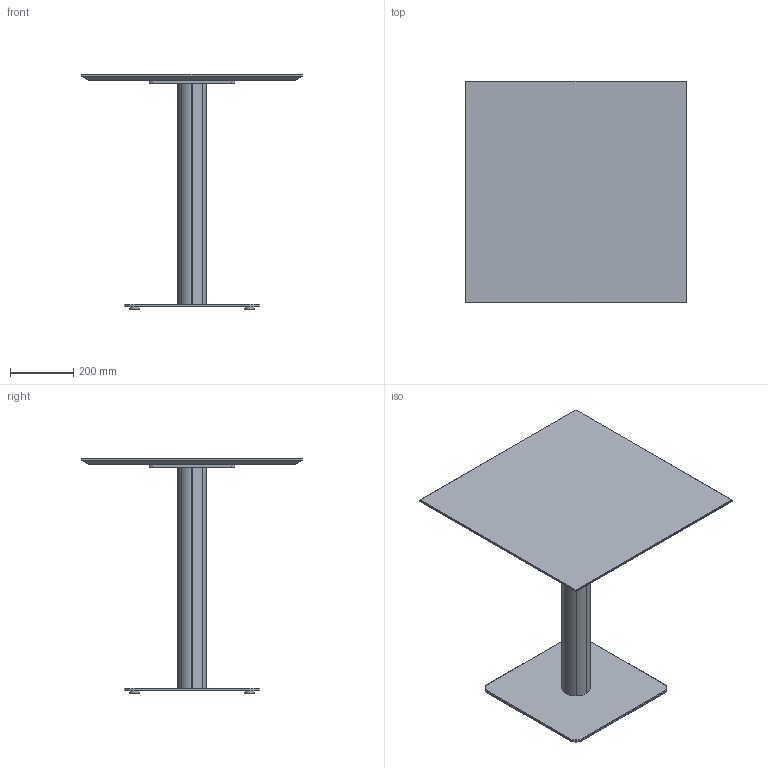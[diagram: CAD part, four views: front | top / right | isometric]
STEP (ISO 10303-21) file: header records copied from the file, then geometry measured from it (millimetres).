
FILE_DESCRIPTION( ('This file contains a STEP AP42 implementation' ,'as created by ZW3D STEP Interface translator.') ,'2;1' );
FILE_NAME( 'Fut - B_Carré - F4 - M5 - 700 x 700 x 750.stp' ,'24 911.1641 1', (''), ('ZWCAD Software Co.'), 'Version 1.0', 'ZW3D to STEP translator', '' );
FILE_SCHEMA(('AUTOMOTIVE_DESIGN { 1 0 10303 214 1 1 1 1 }'));
Length unit declared in the file: millimetre
Products named in the file (15): 0; PIED BISTROT PARAMETRIQUE_; CROIX ACIER 370 V.02_; CRX-X370-02_; SOCLE ACIER L 425x425 V.02_; SCL-R425-02_; PLA-R30A-01_; PLA-R30A-01; COLONNE ACIER Ø48.5 V.02_; TUB-D048-02_; PLA-R48A-01_; COLONNE BOIS PARAMETIQUE_; WUERTH 0276063020 Euro-screw 6.3x2 Verzinkt_; PLATEAU BISTROT PARAMETRIQUE_; insert_m6_13_
Assembly tree (23 placements, depth 3):
  0
  PIED BISTROT PARAMETRIQUE_
    CROIX ACIER 370 V.02_
      CRX-X370-02_
    SOCLE ACIER L 425x425 V.02_
      SCL-R425-02_
      PLA-R30A-01_
      PLA-R30A-01  x3
    COLONNE ACIER Ø48.5 V.02_
      TUB-D048-02_
      PLA-R48A-01_  x2
    COLONNE BOIS PARAMETIQUE_
    WUERTH 0276063020 Euro-screw 6.3x2 Verzinkt_
    PLATEAU BISTROT PARAMETRIQUE_
      insert_m6_13_  x8
Bounding box: 700 x 700 x 744 mm (x, y, z)
Volume: 14216813.8 mm3; surface area: 2166581 mm2
Topology: 23 solids, 23 shells, 557 faces, 1354 edges, 850 vertices
Faces by surface type: plane 282, bspline 125, cylinder 104, cone 45, torus 1
Full cylindrical faces by diameter (mm): 4.88 x1, 6 x8, 6.3 x1, 8 x45, 12 x2, 14 x2, 30 x4, 44.5 x3, 48.5 x1
Entity records: 13027 total; most frequent: CARTESIAN_POINT 3533, ORIENTED_EDGE 1722, DIRECTION 1612, EDGE_CURVE 861, VECTOR 554, LINE 554, VERTEX_POINT 552, AXIS2_PLACEMENT_3D 529
